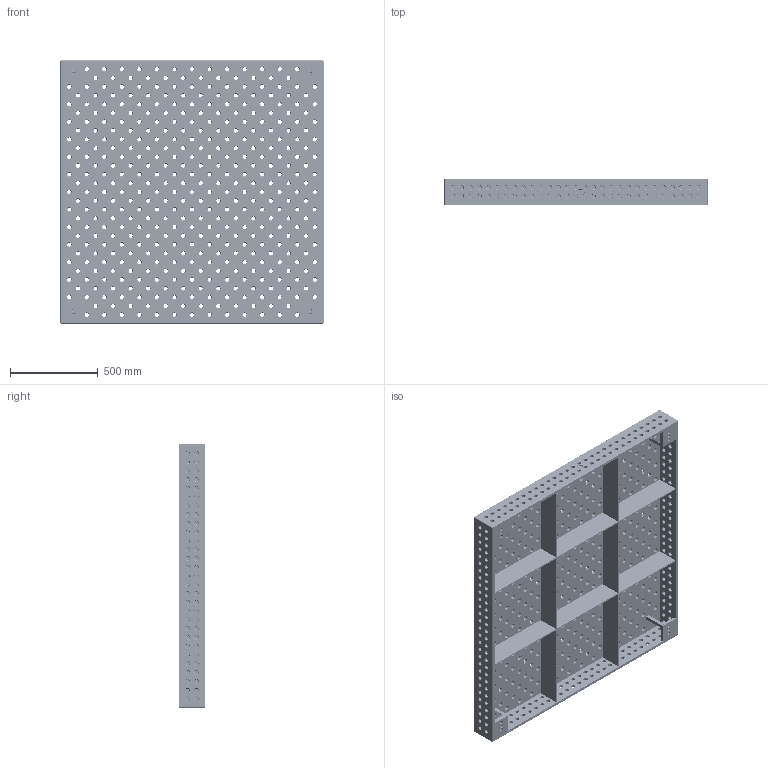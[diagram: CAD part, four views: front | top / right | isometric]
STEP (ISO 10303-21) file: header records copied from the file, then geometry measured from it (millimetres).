
FILE_DESCRIPTION (( 'STEP AP203' ), '1' );
FILE_NAME ('220050.D.STEP', '2020-03-03T08:02:03', ( '' ), ( '' ), 'SwSTEP 2.0', 'SolidWorks 2019', '' );
FILE_SCHEMA (( 'CONFIG_CONTROL_DESIGN' ));
Products named in the file (1): 220050.D
Bounding box: 1500 x 150 x 1500 mm (x, y, z)
Volume: 56489527.3 mm3; surface area: 7952777.8 mm2
Topology: 1 solids, 1 shells, 4111 faces, 9646 edges, 5536 vertices
Faces by surface type: cone 1358, cylinder 1350, torus 1310, plane 89, bspline 4
Entity records: 121483 total; most frequent: DIRECTION 24530, CARTESIAN_POINT 19894, ORIENTED_EDGE 19292, AXIS2_PLACEMENT_3D 10784, EDGE_CURVE 9646, CIRCLE 6676, VERTEX_POINT 5536, EDGE_LOOP 5448
